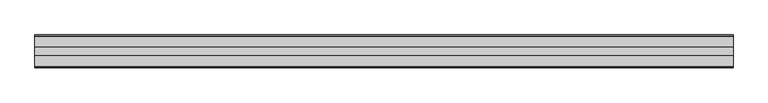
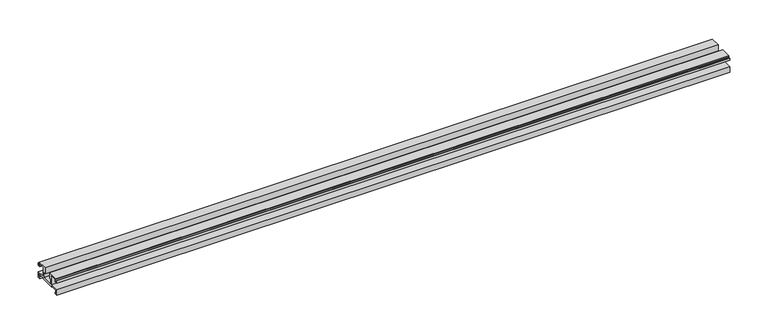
"""IFC4 building model written with IfcOpenShell, lengths in millimetres: proxy geometry, Weiku - Montante - Acoplamento vidro : Weiku - Montante - Acoplamento vidro."""

from ifc_helpers import new_model, si_unit, frame, origin, place, context, project, spatial, polyline, outline, extrude, source, transform, mapped, element, save


def generic_models_c7ab7d12(model_context):
    return source(origin(), model_context, "Body", "SweptSolid", [
        extrude(outline(polyline([(35.405, 5.1494), (12.495, 5.1494), (12.495, 6.8004), (2.159, 6.8004), (2.159, 2.6094), (4.0216, 2.6094), (4.0216, 0.0), (-0.0014508, 0.0), (-0.0014508, 8.79), (12.954, 8.79), (12.954, 23.3104), (4.3603, 23.3104), (4.3603, 19.204), (0.0, 19.204), (0.0, 22.8024), (0.9736, 22.8024), (0.9736, 20.3894), (3.175, 20.3894), (3.175, 23.9454), (2.3735496, 23.9454), (2.3735496, 25.3), (17.4836, 25.3), (17.4836, 16.283), (15.4516, 16.283), (15.4516, 8.8), (32.4484, 8.8), (32.4484, 16.283), (30.4164, 16.283), (30.4164, 25.3), (45.5264504, 25.3), (45.5264504, 23.9454), (44.725, 23.9454), (44.725, 20.3894), (46.9264, 20.3894), (46.9264, 22.8024), (47.9, 22.8024), (47.9, 19.204), (43.5397, 19.204), (43.5397, 23.3104), (34.946, 23.3104), (34.946, 8.79), (47.9014508, 8.79), (47.9014508, 0.0), (43.8784, 0.0), (43.8784, 2.6094), (45.741, 2.6094), (45.741, 6.8004), (35.405, 6.8004), (35.405, 5.1494)])), frame((-506.925, 0.0, 0.0), z_axis=(1.0, 0.0, 0.0), x_axis=(0.0, 1.0, 0.0)), (0.0, 0.0, 1.0), 1013.85),
    ])


if __name__ == "__main__":
    model = new_model("IFC4")
    model_context = context("Model", 3, world=origin())
    ifc_project = project(units=[si_unit("LENGTHUNIT", "METRE", prefix="MILLI")], contexts=[model_context])
    site = spatial("IfcSite", under=ifc_project)
    building = spatial("IfcBuilding", under=site)
    placement = place(None, origin())
    generic_models_shape = generic_models_c7ab7d12(model_context)
    element("IfcBuildingElementProxy", 1, Name="Weiku - Montante - Acoplamento vidro : Weiku - Montante - Acoplamento vidro", ObjectType="Weiku - Montante - Acoplamento vidro : Weiku - Montante - Acoplamento vidro", at=placement, inside=building, context=model_context, shape_type="MappedRepresentation", body=[
        mapped(generic_models_shape, transform((0.0, 0.0, 0.0), x_axis=(1.0, 0.0, 0.0), y_axis=(0.0, 1.0, 0.0), z_axis=(0.0, 0.0, 1.0))),
    ])
    save(model, "model.ifc")
